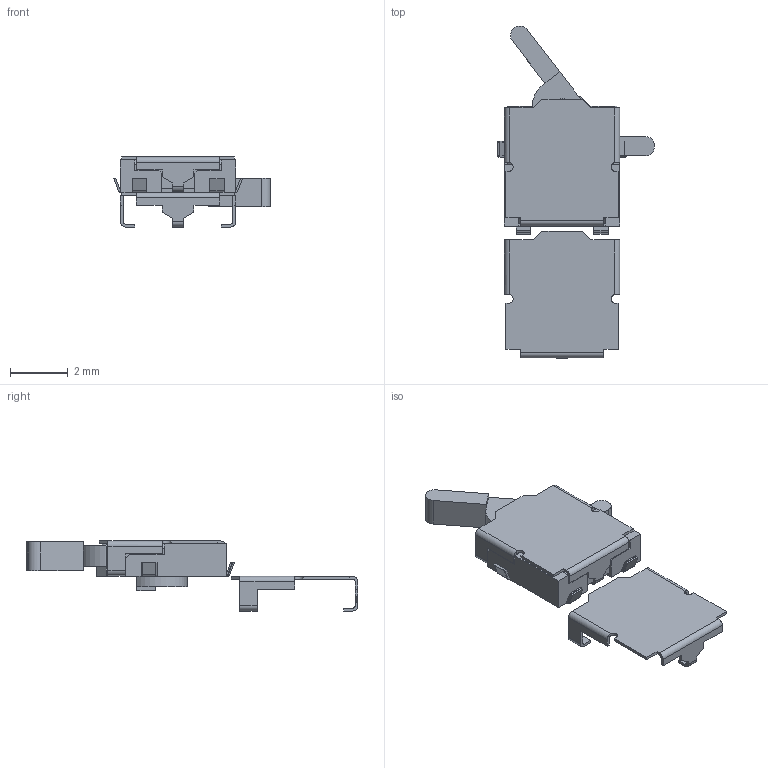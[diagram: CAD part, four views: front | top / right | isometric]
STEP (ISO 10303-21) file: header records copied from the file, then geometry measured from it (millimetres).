
FILE_DESCRIPTION( ( 'Unknown' ), '1' );
FILE_NAME( '//Ntcw022/Edgesv/fsw/ユーザ提出用データ/ﾃﾞｨﾃｸﾀｰｽｲｯﾁ/ESE18/ese18l12a-std-sk.stp', 'Unknown', ( 'Unknown' ), ( 'Unknown' ), 'PSStep 10.0', 'Unknown', ' ' );
FILE_SCHEMA( ( 'AUTOMOTIVE_DESIGN { 1 0 10303 214 1 1 1 1 }' ) );
Length unit declared in the file: millimetre
Products named in the file (8): Assem1; sw-131-e18cs-pc-1; sw-131-e18fm4-sk-1; sw-131-e18ts-j-sk-1; sw-131-e18lv8-sk-1
Bounding box: 5.44 x 11.52 x 2.43 mm (x, y, z)
Volume: 44.5 mm3; surface area: 242.5 mm2
Topology: 14 solids, 14 shells, 342 faces, 936 edges, 624 vertices
Faces by surface type: plane 294, cylinder 46, cone 2
Full cylindrical faces by diameter (mm): 0.6 x2, 0.64 x2
Entity records: 6844 total; most frequent: CARTESIAN_POINT 972, ORIENTED_EDGE 928, DIRECTION 865, EDGE_CURVE 464, LINE 413, VECTOR 413, VERTEX_POINT 311, AXIS2_PLACEMENT_3D 226
